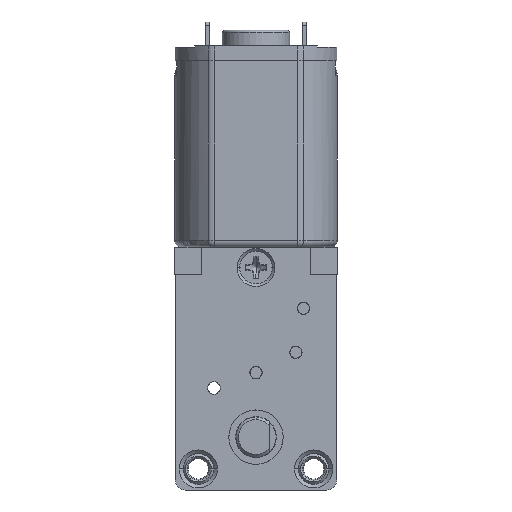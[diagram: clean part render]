
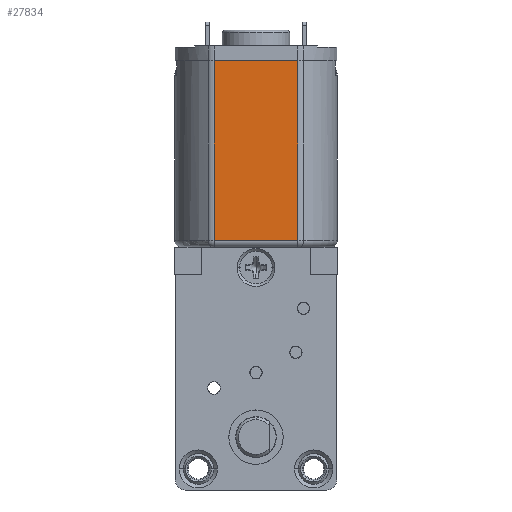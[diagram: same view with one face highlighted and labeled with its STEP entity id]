
A CAD part, front view. The second image highlights one B-rep face of the part: STEP entity #27834.
In plain terms, the highlighted planar face has unit normal (0, -1, 0).
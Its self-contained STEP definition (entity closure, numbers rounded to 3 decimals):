
#1704 = VERTEX_POINT ( 'NONE', #1751 ) ;
#1751 = CARTESIAN_POINT ( 'NONE',  ( -3.082, -5., 0.5 ) ) ;
#1903 = ORIENTED_EDGE ( 'NONE', *, *, #34988, .T. ) ;
#3521 = VECTOR ( 'NONE', #4332, 1000. ) ;
#3910 = DIRECTION ( 'NONE',  ( 0., 0., 1. ) ) ;
#4332 = DIRECTION ( 'NONE',  ( 1., 0., 0. ) ) ;
#5167 = VERTEX_POINT ( 'NONE', #15047 ) ;
#6535 = AXIS2_PLACEMENT_3D ( 'NONE', #12520, #28131, #3910 ) ;
#8884 = LINE ( 'NONE', #24449, #3521 ) ;
#9991 = CARTESIAN_POINT ( 'NONE',  ( -3.082, -5., 13.75 ) ) ;
#10672 = DIRECTION ( 'NONE',  ( 0., 0., -1. ) ) ;
#12520 = CARTESIAN_POINT ( 'NONE',  ( -3.317, -5., 13.75 ) ) ;
#14027 = VECTOR ( 'NONE', #10672, 1000. ) ;
#15047 = CARTESIAN_POINT ( 'NONE',  ( 3.082, -5., 13.75 ) ) ;
#15187 = VECTOR ( 'NONE', #17681, 1000. ) ;
#15869 = EDGE_CURVE ( 'NONE', #21674, #5167, #8884, .T. ) ;
#17681 = DIRECTION ( 'NONE',  ( 0., 0., 1. ) ) ;
#18189 = CARTESIAN_POINT ( 'NONE',  ( 3.082, -5., 13.75 ) ) ;
#19392 = CARTESIAN_POINT ( 'NONE',  ( -3.317, -5., 0.5 ) ) ;
#19448 = VECTOR ( 'NONE', #27067, 1000. ) ;
#21496 = ORIENTED_EDGE ( 'NONE', *, *, #50329, .T. ) ;
#21674 = VERTEX_POINT ( 'NONE', #9991 ) ;
#22183 = LINE ( 'NONE', #37781, #14027 ) ;
#24449 = CARTESIAN_POINT ( 'NONE',  ( -3.317, -5., 13.75 ) ) ;
#25816 = EDGE_CURVE ( 'NONE', #21674, #1704, #22183, .T. ) ;
#26023 = EDGE_LOOP ( 'NONE', ( #29478, #21496, #1903, #36249 ) ) ;
#27067 = DIRECTION ( 'NONE',  ( 1., 0., 0. ) ) ;
#27834 = ADVANCED_FACE ( 'NONE', ( #47543 ), #31479, .F. ) ;
#28131 = DIRECTION ( 'NONE',  ( 0., 1., 0. ) ) ;
#29478 = ORIENTED_EDGE ( 'NONE', *, *, #25816, .T. ) ;
#31479 = PLANE ( 'NONE',  #6535 ) ;
#34988 = EDGE_CURVE ( 'NONE', #36938, #5167, #37632, .T. ) ;
#36249 = ORIENTED_EDGE ( 'NONE', *, *, #15869, .F. ) ;
#36938 = VERTEX_POINT ( 'NONE', #40683 ) ;
#37632 = LINE ( 'NONE', #18189, #15187 ) ;
#37781 = CARTESIAN_POINT ( 'NONE',  ( -3.082, -5., 13.75 ) ) ;
#40683 = CARTESIAN_POINT ( 'NONE',  ( 3.082, -5., 0.5 ) ) ;
#46486 = LINE ( 'NONE', #19392, #19448 ) ;
#47543 = FACE_OUTER_BOUND ( 'NONE', #26023, .T. ) ;
#50329 = EDGE_CURVE ( 'NONE', #1704, #36938, #46486, .T. ) ;
